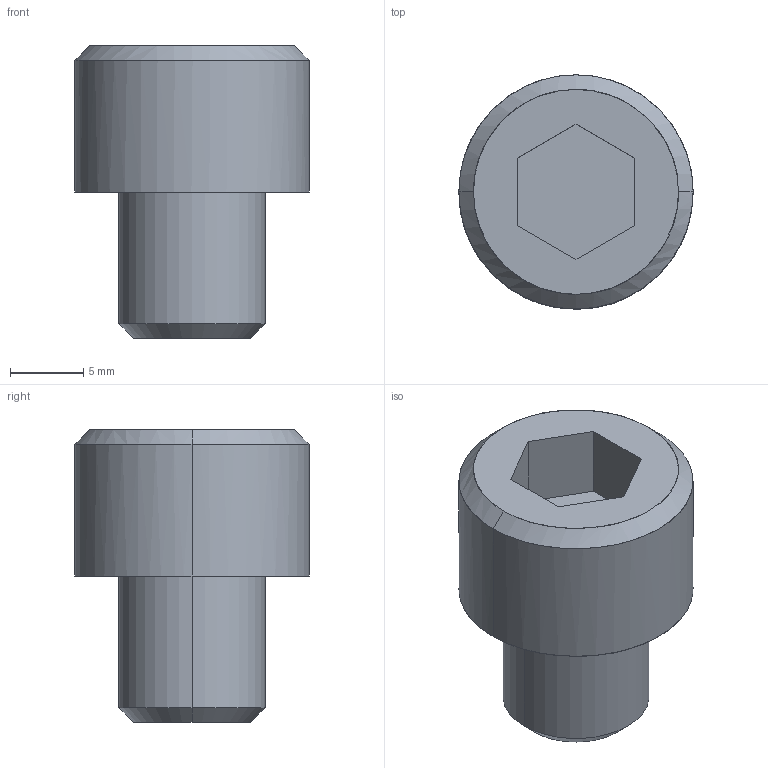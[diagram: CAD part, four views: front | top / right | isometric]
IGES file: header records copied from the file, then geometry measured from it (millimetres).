
Global section: file name: E:\UnigraphicsGraphicData\MISUMI_PRESS-PARTS\IGES\3d_cb10-10_00444_r00.igs; native system: NX V5.0; preprocessor: UGS NX IGES V5.0; author: MISUMI; date: 20110105.160146; units: millimetre
Bounding box: 16 x 16 x 20 mm (x, y, z)
Surface area: 1308.1 mm2 (no closed solid volume)
Topology: 0 solids, 0 shells, 18 faces, 100 edges, 100 vertices
Faces by surface type: bspline 18
